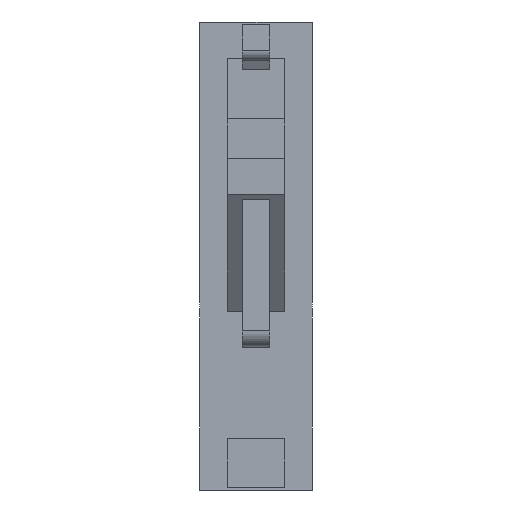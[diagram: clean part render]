
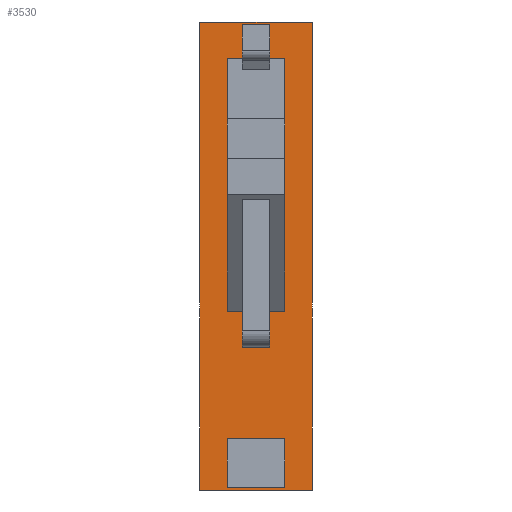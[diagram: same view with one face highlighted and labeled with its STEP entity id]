
A CAD part, left-side view. The second image highlights one B-rep face of the part: STEP entity #3530.
In plain terms, the highlighted planar face has unit normal (-1, 0, 0).
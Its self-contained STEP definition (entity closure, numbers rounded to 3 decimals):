
#619=DIRECTION('',(0.,-1.,0.));
#620=VECTOR('',#619,10.2);
#621=CARTESIAN_POINT('',(10.25,10.2,21.25));
#622=LINE('',#621,#620);
#623=DIRECTION('',(0.,0.,-1.));
#624=VECTOR('',#623,42.5);
#625=CARTESIAN_POINT('',(10.25,0.,21.25));
#626=LINE('',#625,#624);
#627=DIRECTION('',(0.,-1.,0.));
#628=VECTOR('',#627,10.2);
#629=CARTESIAN_POINT('',(10.25,10.2,-21.25));
#630=LINE('',#629,#628);
#1139=DIRECTION('',(0.,0.,-1.));
#1140=VECTOR('',#1139,42.5);
#1141=CARTESIAN_POINT('',(10.25,10.2,21.25));
#1142=LINE('',#1141,#1140);
#1415=DIRECTION('',(0.,1.,0.));
#1416=VECTOR('',#1415,5.2);
#1417=CARTESIAN_POINT('',(10.25,2.5,-5.));
#1418=LINE('',#1417,#1416);
#1455=DIRECTION('',(0.,-1.,0.));
#1456=VECTOR('',#1455,1.35);
#1457=CARTESIAN_POINT('',(10.25,3.85,17.95));
#1458=LINE('',#1457,#1456);
#1463=DIRECTION('',(0.,-1.,0.));
#1464=VECTOR('',#1463,1.35);
#1465=CARTESIAN_POINT('',(10.25,7.7,17.95));
#1466=LINE('',#1465,#1464);
#1467=DIRECTION('',(0.,0.,-1.));
#1468=VECTOR('',#1467,22.95);
#1469=CARTESIAN_POINT('',(10.25,2.5,17.95));
#1470=LINE('',#1469,#1468);
#1515=DIRECTION('',(0.,0.,1.));
#1516=VECTOR('',#1515,22.95);
#1517=CARTESIAN_POINT('',(10.25,7.7,-5.));
#1518=LINE('',#1517,#1516);
#1567=DIRECTION('',(0.,0.,1.));
#1568=VECTOR('',#1567,3.047);
#1569=CARTESIAN_POINT('',(10.25,6.35,17.95));
#1570=LINE('',#1569,#1568);
#1588=DIRECTION('',(0.,-1.,0.));
#1589=VECTOR('',#1588,2.5);
#1590=CARTESIAN_POINT('',(10.25,6.35,20.997));
#1591=LINE('',#1590,#1589);
#1621=DIRECTION('',(0.,0.,-1.));
#1622=VECTOR('',#1621,3.047);
#1623=CARTESIAN_POINT('',(10.25,3.85,20.997));
#1624=LINE('',#1623,#1622);
#1765=DIRECTION('',(0.,1.,0.));
#1766=VECTOR('',#1765,5.2);
#1767=CARTESIAN_POINT('',(10.25,2.5,-21.));
#1768=LINE('',#1767,#1766);
#1777=DIRECTION('',(0.,0.,1.));
#1778=VECTOR('',#1777,4.4);
#1779=CARTESIAN_POINT('',(10.25,7.7,-21.));
#1780=LINE('',#1779,#1778);
#1797=DIRECTION('',(0.,0.,-1.));
#1798=VECTOR('',#1797,4.4);
#1799=CARTESIAN_POINT('',(10.25,2.5,-16.6));
#1800=LINE('',#1799,#1798);
#1849=DIRECTION('',(0.,-1.,0.));
#1850=VECTOR('',#1849,5.2);
#1851=CARTESIAN_POINT('',(10.25,7.7,-16.6));
#1852=LINE('',#1851,#1850);
#2039=CARTESIAN_POINT('',(10.25,0.,-21.25));
#2040=VERTEX_POINT('',#2039);
#2041=CARTESIAN_POINT('',(10.25,0.,21.25));
#2042=VERTEX_POINT('',#2041);
#2275=CARTESIAN_POINT('',(10.25,10.2,21.25));
#2276=VERTEX_POINT('',#2275);
#2277=CARTESIAN_POINT('',(10.25,2.5,-5.));
#2278=CARTESIAN_POINT('',(10.25,7.7,-5.));
#2279=VERTEX_POINT('',#2277);
#2280=VERTEX_POINT('',#2278);
#2281=CARTESIAN_POINT('',(10.25,3.85,17.95));
#2282=CARTESIAN_POINT('',(10.25,2.5,17.95));
#2283=VERTEX_POINT('',#2281);
#2284=VERTEX_POINT('',#2282);
#2285=CARTESIAN_POINT('',(10.25,3.85,20.997));
#2286=VERTEX_POINT('',#2285);
#2287=CARTESIAN_POINT('',(10.25,6.35,20.997));
#2288=VERTEX_POINT('',#2287);
#2289=CARTESIAN_POINT('',(10.25,7.7,17.95));
#2290=CARTESIAN_POINT('',(10.25,6.35,17.95));
#2291=VERTEX_POINT('',#2289);
#2292=VERTEX_POINT('',#2290);
#2293=CARTESIAN_POINT('',(10.25,2.5,-21.));
#2294=CARTESIAN_POINT('',(10.25,7.7,-21.));
#2295=VERTEX_POINT('',#2293);
#2296=VERTEX_POINT('',#2294);
#2297=CARTESIAN_POINT('',(10.25,7.7,-16.6));
#2298=CARTESIAN_POINT('',(10.25,2.5,-16.6));
#2299=VERTEX_POINT('',#2297);
#2300=VERTEX_POINT('',#2298);
#2301=CARTESIAN_POINT('',(10.25,10.2,-21.25));
#2302=VERTEX_POINT('',#2301);
#3489=CARTESIAN_POINT('',(10.25,5.1,0.));
#3490=DIRECTION('',(1.,0.,0.));
#3491=DIRECTION('',(0.,0.,-1.));
#3492=AXIS2_PLACEMENT_3D('',#3489,#3490,#3491);
#3493=PLANE('',#3492);
#3495=ORIENTED_EDGE('',*,*,#3494,.F.);
#3497=ORIENTED_EDGE('',*,*,#3496,.F.);
#3498=ORIENTED_EDGE('',*,*,#3479,.T.);
#3499=ORIENTED_EDGE('',*,*,#2700,.T.);
#3500=EDGE_LOOP('',(#3495,#3497,#3498,#3499));
#3501=FACE_OUTER_BOUND('',#3500,.F.);
#3503=ORIENTED_EDGE('',*,*,#3502,.F.);
#3505=ORIENTED_EDGE('',*,*,#3504,.F.);
#3507=ORIENTED_EDGE('',*,*,#3506,.F.);
#3509=ORIENTED_EDGE('',*,*,#3508,.F.);
#3511=ORIENTED_EDGE('',*,*,#3510,.F.);
#3513=ORIENTED_EDGE('',*,*,#3512,.F.);
#3515=ORIENTED_EDGE('',*,*,#3514,.F.);
#3517=ORIENTED_EDGE('',*,*,#3516,.F.);
#3518=EDGE_LOOP('',(#3503,#3505,#3507,#3509,#3511,#3513,#3515,#3517));
#3519=FACE_BOUND('',#3518,.F.);
#3521=ORIENTED_EDGE('',*,*,#3520,.F.);
#3523=ORIENTED_EDGE('',*,*,#3522,.F.);
#3525=ORIENTED_EDGE('',*,*,#3524,.F.);
#3527=ORIENTED_EDGE('',*,*,#3526,.F.);
#3528=EDGE_LOOP('',(#3521,#3523,#3525,#3527));
#3529=FACE_BOUND('',#3528,.F.);
#2700=EDGE_CURVE('',#2042,#2040,#626,.T.);
#3479=EDGE_CURVE('',#2276,#2042,#622,.T.);
#3494=EDGE_CURVE('',#2302,#2040,#630,.T.);
#3496=EDGE_CURVE('',#2276,#2302,#1142,.T.);
#3502=EDGE_CURVE('',#2279,#2280,#1418,.T.);
#3504=EDGE_CURVE('',#2284,#2279,#1470,.T.);
#3506=EDGE_CURVE('',#2283,#2284,#1458,.T.);
#3508=EDGE_CURVE('',#2286,#2283,#1624,.T.);
#3510=EDGE_CURVE('',#2288,#2286,#1591,.T.);
#3512=EDGE_CURVE('',#2292,#2288,#1570,.T.);
#3514=EDGE_CURVE('',#2291,#2292,#1466,.T.);
#3516=EDGE_CURVE('',#2280,#2291,#1518,.T.);
#3520=EDGE_CURVE('',#2295,#2296,#1768,.T.);
#3522=EDGE_CURVE('',#2300,#2295,#1800,.T.);
#3524=EDGE_CURVE('',#2299,#2300,#1852,.T.);
#3526=EDGE_CURVE('',#2296,#2299,#1780,.T.);
#3530=ADVANCED_FACE('',(#3501,#3519,#3529),#3493,.F.);
